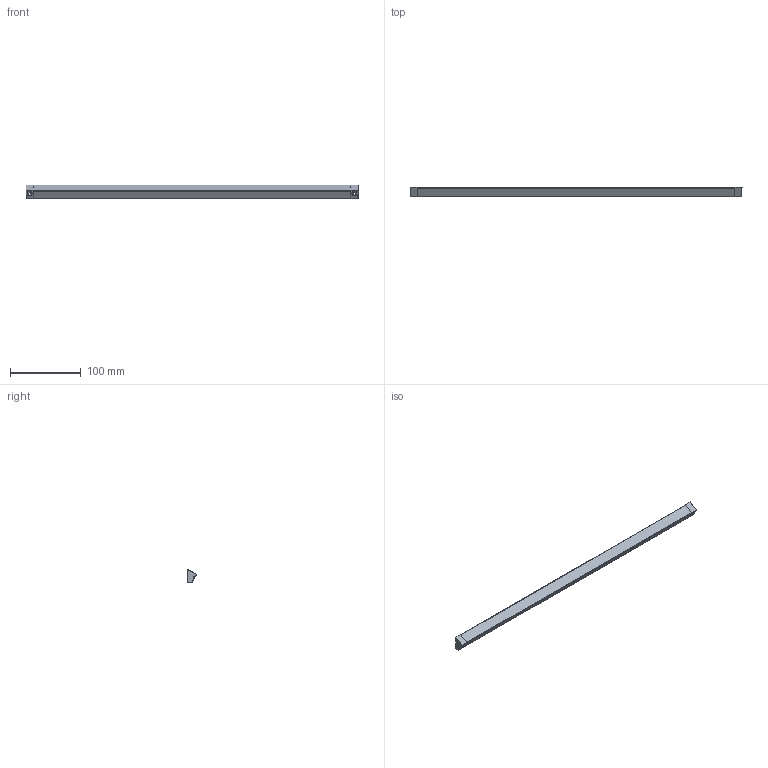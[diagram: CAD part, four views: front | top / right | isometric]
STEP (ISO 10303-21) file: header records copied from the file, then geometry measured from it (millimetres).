
FILE_DESCRIPTION(/* description */ (''),/* implementation_level */ '2;1');
FILE_NAME(/* name */ '6112511_Profil_DerbyII_sldprt.stp',/* time_stamp */ '2019-06-11T08:24:05+02:00',/* author */ (''),/* organization */ (''),/* preprocessor_version */ 'ST-DEVELOPER v16.7',/* originating_system */ 'SIEMENS PLM Software NX 12.0',/* authorisation */ '');
FILE_SCHEMA (('AUTOMOTIVE_DESIGN { 1 0 10303 214 3 1 1 1 }'));
Length unit declared in the file: millimetre
Products named in the file (1): p.sc242CC721x3dn
Bounding box: 470 x 12.83 x 19.36 mm (x, y, z)
Volume: 73290.2 mm3; surface area: 25683.2 mm2
Topology: 1 solids, 1 shells, 74 faces, 216 edges, 142 vertices
Faces by surface type: plane 36, cylinder 28, bspline 8, cone 2
Full cylindrical faces by diameter (mm): 3.4 x2
Entity records: 2801 total; most frequent: CARTESIAN_POINT 867, ORIENTED_EDGE 416, DIRECTION 370, EDGE_CURVE 208, VERTEX_POINT 140, AXIS2_PLACEMENT_3D 133, LINE 104, VECTOR 104
